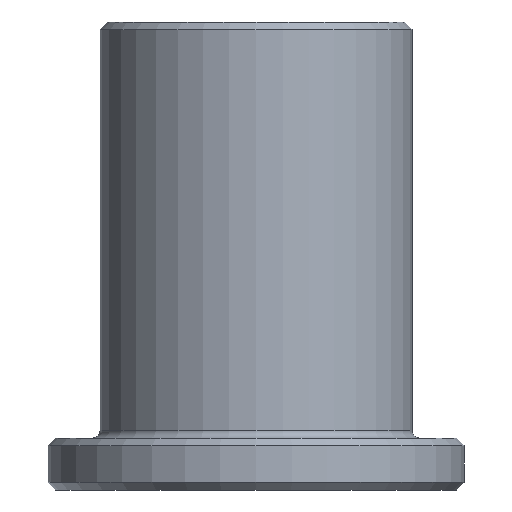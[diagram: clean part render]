
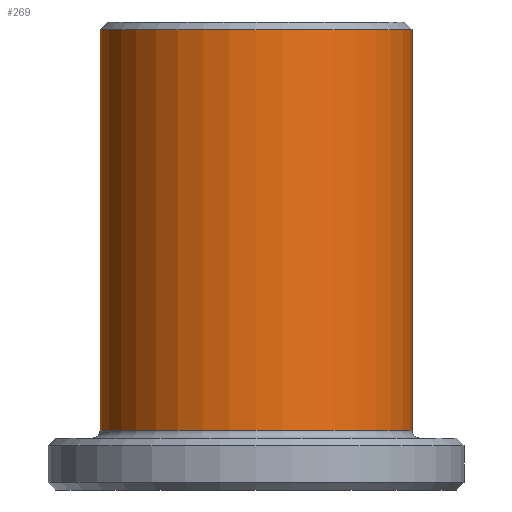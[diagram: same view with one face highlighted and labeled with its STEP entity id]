
A CAD part, front view. The second image highlights one B-rep face of the part: STEP entity #269.
In plain terms, the highlighted cylindrical face has radius 6 mm (diameter 12 mm), a partial arc.
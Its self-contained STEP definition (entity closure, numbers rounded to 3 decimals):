
#2 = DIRECTION ( 'NONE',  ( 1., 0., 0. ) ) ;
#5 = DIRECTION ( 'NONE',  ( 1., 0., 0. ) ) ;
#13 = DIRECTION ( 'NONE',  ( 0., 0., -1. ) ) ;
#68 = VERTEX_POINT ( 'NONE', #321 ) ;
#98 = VECTOR ( 'NONE', #491, 1000. ) ;
#104 = CARTESIAN_POINT ( 'NONE',  ( -6., 0., -0.3 ) ) ;
#155 = AXIS2_PLACEMENT_3D ( 'NONE', #236, #13, #2 ) ;
#164 = VERTEX_POINT ( 'NONE', #357 ) ;
#175 = CARTESIAN_POINT ( 'NONE',  ( 0., 0., 0. ) ) ;
#183 = ORIENTED_EDGE ( 'NONE', *, *, #244, .T. ) ;
#199 = ORIENTED_EDGE ( 'NONE', *, *, #502, .T. ) ;
#218 = ORIENTED_EDGE ( 'NONE', *, *, #417, .F. ) ;
#225 = LINE ( 'NONE', #596, #440 ) ;
#236 = CARTESIAN_POINT ( 'NONE',  ( 0., 0., -0.3 ) ) ;
#244 = EDGE_CURVE ( 'NONE', #164, #438, #495, .T. ) ;
#253 = VERTEX_POINT ( 'NONE', #400 ) ;
#269 = ADVANCED_FACE ( 'NONE', ( #368 ), #585, .T. ) ;
#272 = AXIS2_PLACEMENT_3D ( 'NONE', #175, #483, #394 ) ;
#281 = CIRCLE ( 'NONE', #316, 6. ) ;
#316 = AXIS2_PLACEMENT_3D ( 'NONE', #416, #568, #5 ) ;
#321 = CARTESIAN_POINT ( 'NONE',  ( 6., 0., -15.7 ) ) ;
#322 = EDGE_LOOP ( 'NONE', ( #218, #199, #545, #183 ) ) ;
#343 = LINE ( 'NONE', #451, #98 ) ;
#357 = CARTESIAN_POINT ( 'NONE',  ( 6., 0., -0.3 ) ) ;
#368 = FACE_OUTER_BOUND ( 'NONE', #322, .T. ) ;
#394 = DIRECTION ( 'NONE',  ( 1., 0., 0. ) ) ;
#400 = CARTESIAN_POINT ( 'NONE',  ( -6., 0., -15.7 ) ) ;
#416 = CARTESIAN_POINT ( 'NONE',  ( 0., 0., -15.7 ) ) ;
#417 = EDGE_CURVE ( 'NONE', #253, #438, #343, .T. ) ;
#437 = EDGE_CURVE ( 'NONE', #68, #164, #225, .T. ) ;
#438 = VERTEX_POINT ( 'NONE', #104 ) ;
#440 = VECTOR ( 'NONE', #515, 1000. ) ;
#451 = CARTESIAN_POINT ( 'NONE',  ( -6., 0., 0. ) ) ;
#483 = DIRECTION ( 'NONE',  ( 0., 0., 1. ) ) ;
#491 = DIRECTION ( 'NONE',  ( 0., 0., 1. ) ) ;
#495 = CIRCLE ( 'NONE', #155, 6. ) ;
#502 = EDGE_CURVE ( 'NONE', #253, #68, #281, .T. ) ;
#515 = DIRECTION ( 'NONE',  ( 0., 0., 1. ) ) ;
#545 = ORIENTED_EDGE ( 'NONE', *, *, #437, .T. ) ;
#568 = DIRECTION ( 'NONE',  ( 0., 0., 1. ) ) ;
#585 = CYLINDRICAL_SURFACE ( 'NONE', #272, 6. ) ;
#596 = CARTESIAN_POINT ( 'NONE',  ( 6., 0., 0. ) ) ;
